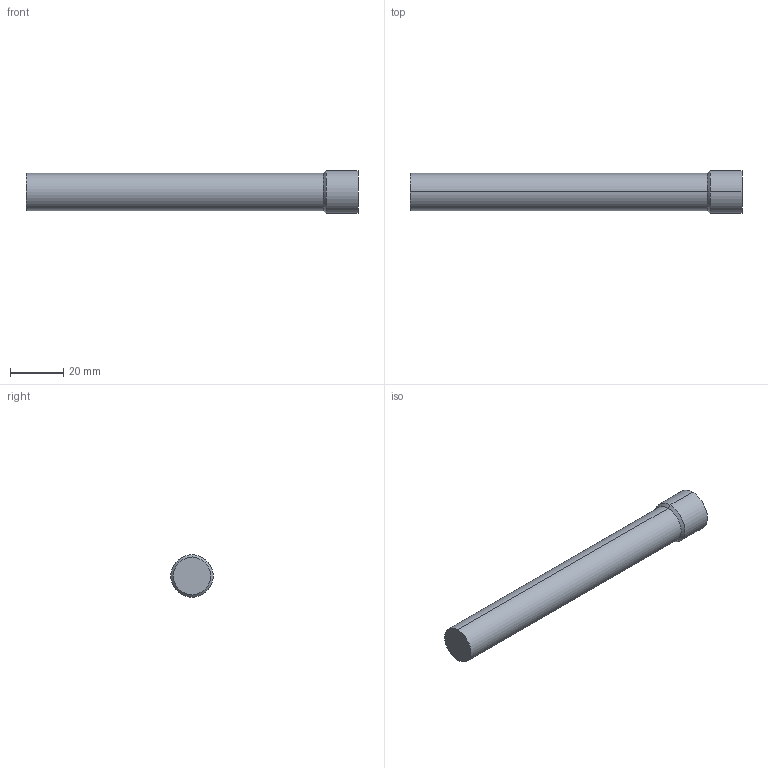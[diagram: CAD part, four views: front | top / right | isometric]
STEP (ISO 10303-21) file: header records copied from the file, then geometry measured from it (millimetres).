
FILE_DESCRIPTION (( 'STEP AP214' ), '1' );
FILE_NAME ('BR89-1-4x125.STEP', '2020-06-23T10:33:22', ( '' ), ( '' ), 'SwSTEP 2.0', 'SolidWorks 2018', '' );
FILE_SCHEMA (( 'AUTOMOTIVE_DESIGN' ));
Length unit declared in the file: millimetre
Products named in the file (1): BR89-1-4x125
Bounding box: 125 x 16 x 16 mm (x, y, z)
Volume: 19276.5 mm3; surface area: 6228 mm2
Topology: 1 solids, 1 shells, 15 faces, 32 edges, 20 vertices
Faces by surface type: plane 9, cylinder 4, cone 2
Entity records: 436 total; most frequent: DIRECTION 72, CARTESIAN_POINT 68, ORIENTED_EDGE 64, EDGE_CURVE 32, VECTOR 24, AXIS2_PLACEMENT_3D 24, LINE 24, VERTEX_POINT 20
